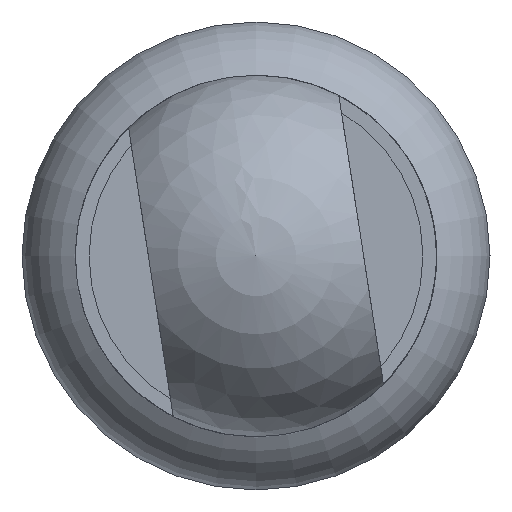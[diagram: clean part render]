
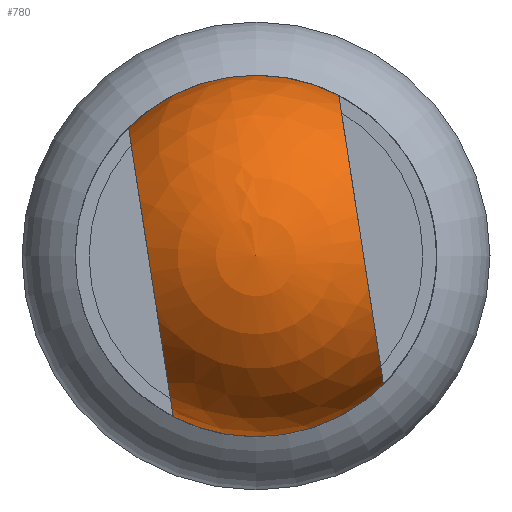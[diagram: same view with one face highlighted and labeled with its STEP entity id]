
A CAD part, left-side view. The second image highlights one B-rep face of the part: STEP entity #780.
In plain terms, the highlighted spherical face has radius 8.5 mm.
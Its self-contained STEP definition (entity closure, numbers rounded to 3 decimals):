
#28=SPHERICAL_SURFACE('',#1027,8.5);
#133=FACE_OUTER_BOUND('',#194,.T.);
#194=EDGE_LOOP('',(#679,#680,#681,#682,#683,#684,#685));
#318=CIRCLE('',#1012,6.874);
#326=CIRCLE('',#1023,8.5);
#327=CIRCLE('',#1024,8.5);
#329=CIRCLE('',#1026,8.5);
#330=CIRCLE('',#1028,8.5);
#331=CIRCLE('',#1029,6.874);
#384=VERTEX_POINT('',#1498);
#385=VERTEX_POINT('',#1500);
#393=VERTEX_POINT('',#1523);
#394=VERTEX_POINT('',#1525);
#397=VERTEX_POINT('',#1531);
#398=VERTEX_POINT('',#1535);
#477=EDGE_CURVE('',#385,#384,#318,.F.);
#489=EDGE_CURVE('',#393,#385,#326,.T.);
#490=EDGE_CURVE('',#394,#393,#327,.T.);
#494=EDGE_CURVE('',#384,#397,#329,.T.);
#495=EDGE_CURVE('',#398,#393,#330,.T.);
#496=EDGE_CURVE('',#397,#394,#331,.F.);
#679=ORIENTED_EDGE('',*,*,#495,.T.);
#680=ORIENTED_EDGE('',*,*,#489,.T.);
#681=ORIENTED_EDGE('',*,*,#477,.T.);
#682=ORIENTED_EDGE('',*,*,#494,.T.);
#683=ORIENTED_EDGE('',*,*,#496,.T.);
#684=ORIENTED_EDGE('',*,*,#490,.T.);
#685=ORIENTED_EDGE('',*,*,#495,.F.);
#780=ADVANCED_FACE('',(#133),#28,.T.);
#1012=AXIS2_PLACEMENT_3D('',#1501,#1252,#1253);
#1023=AXIS2_PLACEMENT_3D('',#1524,#1278,#1279);
#1024=AXIS2_PLACEMENT_3D('',#1526,#1280,#1281);
#1026=AXIS2_PLACEMENT_3D('',#1533,#1286,#1287);
#1027=AXIS2_PLACEMENT_3D('',#1534,#1288,#1289);
#1028=AXIS2_PLACEMENT_3D('',#1536,#1290,#1291);
#1029=AXIS2_PLACEMENT_3D('',#1537,#1292,#1293);
#1252=DIRECTION('center_axis',(0.,0.,1.));
#1253=DIRECTION('ref_axis',(1.,0.,0.));
#1278=DIRECTION('center_axis',(1.,0.,0.));
#1279=DIRECTION('ref_axis',(0.,0.,-1.));
#1280=DIRECTION('center_axis',(1.,0.,0.));
#1281=DIRECTION('ref_axis',(0.,0.,-1.));
#1286=DIRECTION('center_axis',(1.,0.,0.));
#1287=DIRECTION('ref_axis',(0.,0.,-1.));
#1288=DIRECTION('center_axis',(1.,0.,0.));
#1289=DIRECTION('ref_axis',(0.,-1.,0.));
#1290=DIRECTION('center_axis',(0.,0.,1.));
#1291=DIRECTION('ref_axis',(0.,1.,0.));
#1292=DIRECTION('center_axis',(0.,0.,-1.));
#1293=DIRECTION('ref_axis',(-1.,0.,0.));
#1498=CARTESIAN_POINT('',(16.,-6.874,5.));
#1500=CARTESIAN_POINT('',(16.,6.874,5.));
#1501=CARTESIAN_POINT('Origin',(16.,0.,5.));
#1523=CARTESIAN_POINT('',(16.,8.5,0.));
#1524=CARTESIAN_POINT('Origin',(16.,0.,0.));
#1525=CARTESIAN_POINT('',(16.,6.874,-5.));
#1526=CARTESIAN_POINT('Origin',(16.,0.,0.));
#1531=CARTESIAN_POINT('',(16.,-6.874,-5.));
#1533=CARTESIAN_POINT('Origin',(16.,0.,0.));
#1534=CARTESIAN_POINT('Origin',(16.,0.,0.));
#1535=CARTESIAN_POINT('',(24.5,0.,0.));
#1536=CARTESIAN_POINT('Origin',(16.,0.,0.));
#1537=CARTESIAN_POINT('Origin',(16.,0.,-5.));
